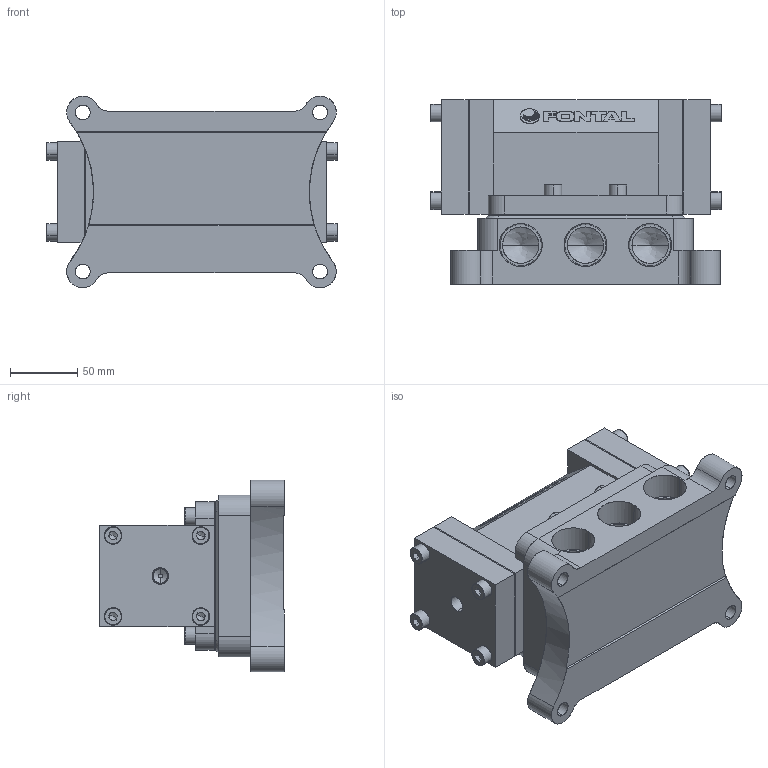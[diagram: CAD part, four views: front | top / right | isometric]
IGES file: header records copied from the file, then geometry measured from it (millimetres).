
Start section: SolidWorks IGES file using analytic representation for surfaces
Global section: file name: D:\Custom\3D繪製\VM\VM25\VMD2425-08.IGS,1; native system: 5HSolidWorks 2014; preprocessor: SolidWorks 2014; author: Chieh_Lu; date: 160114.023641; units: millimetre
Bounding box: 216 x 137 x 142 mm (x, y, z)
Surface area: 276322.5 mm2 (no closed solid volume)
Topology: 0 solids, 0 shells, 600 faces, 7368 edges, 7334 vertices
Faces by surface type: bspline 383, revolution 217
